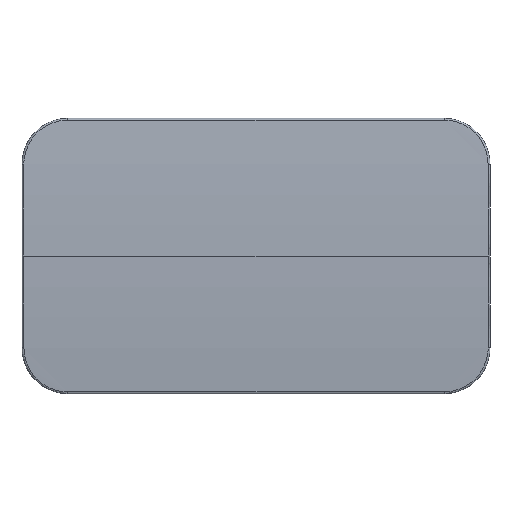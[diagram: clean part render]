
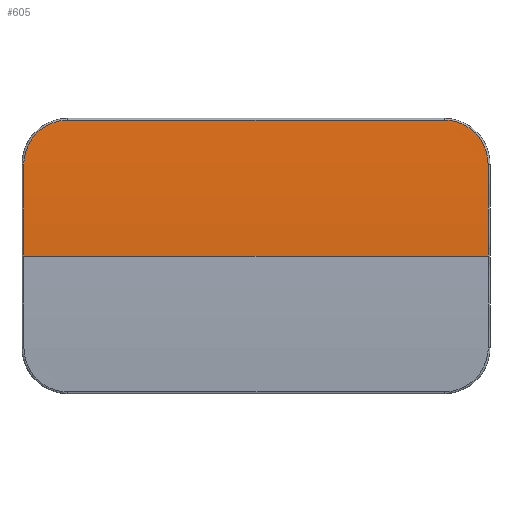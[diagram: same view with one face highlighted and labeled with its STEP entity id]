
A CAD part, left-side view. The second image highlights one B-rep face of the part: STEP entity #605.
In plain terms, the highlighted cylindrical face has radius 161.064 mm (diameter 322.129 mm), a partial arc.
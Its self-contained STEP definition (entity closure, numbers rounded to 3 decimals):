
#312 = CARTESIAN_POINT ( 'NONE',  ( -3247.938, -4493.355, 16.999 ) ) ;
#353 = CARTESIAN_POINT ( 'NONE',  ( -3248.175, -4488.985, 14.164 ) ) ;
#373 = LINE ( 'NONE', #7489, #4556 ) ;
#421 = CARTESIAN_POINT ( 'NONE',  ( -3247.977, -4536.329, 16.568 ) ) ;
#461 = CARTESIAN_POINT ( 'NONE',  ( -3248.29, -4539.155, 12.502 ) ) ;
#605 = ADVANCED_FACE ( 'NONE', ( #3142 ), #5539, .T. ) ;
#629 = CARTESIAN_POINT ( 'NONE',  ( -3247.938, -4534.355, 16.999 ) ) ;
#757 = DIRECTION ( 'NONE',  ( 0., 1., 0. ) ) ;
#829 = CARTESIAN_POINT ( 'NONE',  ( -3248.132, -4489.28, 14.73 ) ) ;
#864 = VERTEX_POINT ( 'NONE', #312 ) ;
#933 = EDGE_LOOP ( 'NONE', ( #1654, #7139, #5715, #6886, #5174, #4761 ) ) ;
#946 = CARTESIAN_POINT ( 'NONE',  ( -3248.31, -4488.555, 12.193 ) ) ;
#985 = CARTESIAN_POINT ( 'NONE',  ( -3248.025, -4490.4, 16.032 ) ) ;
#1044 = VERTEX_POINT ( 'NONE', #629 ) ;
#1083 = CARTESIAN_POINT ( 'NONE',  ( -3248.621, -4488.555, 2.181 ) ) ;
#1084 = AXIS2_PLACEMENT_3D ( 'NONE', #2616, #6243, #4907 ) ;
#1175 = CARTESIAN_POINT ( 'NONE',  ( -3248.141, -4538.541, 14.619 ) ) ;
#1253 = AXIS2_PLACEMENT_3D ( 'NONE', #4537, #6991, #6357 ) ;
#1343 = CARTESIAN_POINT ( 'NONE',  ( -3247.961, -4491.831, 16.745 ) ) ;
#1462 = CARTESIAN_POINT ( 'NONE',  ( -3248.081, -4489.736, 15.366 ) ) ;
#1507 = CARTESIAN_POINT ( 'NONE',  ( -3248.271, -4488.555, 12.811 ) ) ;
#1509 = CARTESIAN_POINT ( 'NONE',  ( -3248.31, -4539.155, 12.193 ) ) ;
#1654 = ORIENTED_EDGE ( 'NONE', *, *, #1814, .F. ) ;
#1772 = CARTESIAN_POINT ( 'NONE',  ( -3248.197, -4538.848, 13.865 ) ) ;
#1814 = EDGE_CURVE ( 'NONE', #4759, #4182, #5579, .T. ) ;
#1880 = CIRCLE ( 'NONE', #1253, 161.064 ) ;
#1934 = EDGE_CURVE ( 'NONE', #1044, #864, #7578, .T. ) ;
#1943 = CARTESIAN_POINT ( 'NONE',  ( -3247.941, -4492.74, 16.968 ) ) ;
#2096 = CARTESIAN_POINT ( 'NONE',  ( -3248.147, -4489.159, 14.526 ) ) ;
#2136 = CARTESIAN_POINT ( 'NONE',  ( -3248.164, -4489.053, 14.31 ) ) ;
#2174 = CARTESIAN_POINT ( 'NONE',  ( -3248.18, -4488.952, 14.089 ) ) ;
#2212 = CARTESIAN_POINT ( 'NONE',  ( -3248.31, -4488.555, 12.193 ) ) ;
#2284 = CARTESIAN_POINT ( 'NONE',  ( -3247.984, -4536.477, 16.498 ) ) ;
#2616 = CARTESIAN_POINT ( 'NONE',  ( -3087.557, -4539.355, 2.181 ) ) ;
#2678 = DIRECTION ( 'NONE',  ( 0., -1., 0. ) ) ;
#2772 = CARTESIAN_POINT ( 'NONE',  ( -3248.1, -4489.539, 15.124 ) ) ;
#2886 = CARTESIAN_POINT ( 'NONE',  ( -3248.191, -4538.82, 13.938 ) ) ;
#2927 = CARTESIAN_POINT ( 'NONE',  ( -3247.938, -4534.973, 16.999 ) ) ;
#3005 = EDGE_CURVE ( 'NONE', #864, #4182, #6457, .T. ) ;
#3142 = FACE_OUTER_BOUND ( 'NONE', #933, .T. ) ;
#3177 = DIRECTION ( 'NONE',  ( -0.998, 0., -0.062 ) ) ;
#3190 = AXIS2_PLACEMENT_3D ( 'NONE', #6164, #757, #3177 ) ;
#3313 = CARTESIAN_POINT ( 'NONE',  ( -3248.621, -4539.155, 2.181 ) ) ;
#3376 = EDGE_CURVE ( 'NONE', #5587, #3793, #1880, .T. ) ;
#3442 = CARTESIAN_POINT ( 'NONE',  ( -3248.027, -4537.289, 16.008 ) ) ;
#3524 = CARTESIAN_POINT ( 'NONE',  ( -3248.044, -4537.531, 15.81 ) ) ;
#3769 = CARTESIAN_POINT ( 'NONE',  ( -3247.966, -4491.682, 16.692 ) ) ;
#3793 = VERTEX_POINT ( 'NONE', #3313 ) ;
#3998 = CARTESIAN_POINT ( 'NONE',  ( -3248.23, -4488.677, 13.418 ) ) ;
#4070 = CARTESIAN_POINT ( 'NONE',  ( -3248.004, -4536.895, 16.268 ) ) ;
#4182 = VERTEX_POINT ( 'NONE', #2212 ) ;
#4189 = CARTESIAN_POINT ( 'NONE',  ( -3248.099, -4538.196, 15.143 ) ) ;
#4226 = CARTESIAN_POINT ( 'NONE',  ( -3247.938, -4534.355, 16.999 ) ) ;
#4358 = CARTESIAN_POINT ( 'NONE',  ( -3247.949, -4492.284, 16.876 ) ) ;
#4436 = CARTESIAN_POINT ( 'NONE',  ( -3247.938, -4534.355, 16.999 ) ) ;
#4537 = CARTESIAN_POINT ( 'NONE',  ( -3087.557, -4539.155, 2.181 ) ) ;
#4556 = VECTOR ( 'NONE', #2678, 1000. ) ;
#4584 = EDGE_CURVE ( 'NONE', #5587, #1044, #6437, .T. ) ;
#4755 = EDGE_CURVE ( 'NONE', #4759, #3793, #373, .T. ) ;
#4759 = VERTEX_POINT ( 'NONE', #1083 ) ;
#4761 = ORIENTED_EDGE ( 'NONE', *, *, #3005, .T. ) ;
#4814 = CARTESIAN_POINT ( 'NONE',  ( -3247.95, -4535.581, 16.876 ) ) ;
#4907 = DIRECTION ( 'NONE',  ( -1., 0., 0. ) ) ;
#4947 = CARTESIAN_POINT ( 'NONE',  ( -3247.938, -4493.355, 16.999 ) ) ;
#5174 = ORIENTED_EDGE ( 'NONE', *, *, #1934, .T. ) ;
#5539 = CYLINDRICAL_SURFACE ( 'NONE', #1084, 161.064 ) ;
#5579 = CIRCLE ( 'NONE', #3190, 161.064 ) ;
#5587 = VERTEX_POINT ( 'NONE', #1509 ) ;
#5715 = ORIENTED_EDGE ( 'NONE', *, *, #3376, .F. ) ;
#5831 = VECTOR ( 'NONE', #6844, 1000. ) ;
#6164 = CARTESIAN_POINT ( 'NONE',  ( -3087.557, -4488.555, 2.181 ) ) ;
#6243 = DIRECTION ( 'NONE',  ( 0., -1., 0. ) ) ;
#6357 = DIRECTION ( 'NONE',  ( -0.998, 0., 0.062 ) ) ;
#6437 = B_SPLINE_CURVE_WITH_KNOTS ( 'NONE', 3,
 ( #7181, #461, #7111, #7731, #6631, #1772, #2886, #1175, #4189, #3524, #3442, #4070, #7644, #2284, #421, #4814, #2927, #4226 ),
 .UNSPECIFIED., .F., .F.,
 ( 4, 1, 1, 2, 2, 2, 2, 2, 2, 4 ),
 ( 0., 0.125, 0.187, 0.219, 0.25, 0.5, 0.625, 0.687, 0.75, 1. ),
 .UNSPECIFIED. ) ;
#6457 = B_SPLINE_CURVE_WITH_KNOTS ( 'NONE', 3,
 ( #4947, #7355, #1943, #4358, #6763, #1343, #3769, #7613, #985, #1462, #2772, #829, #2096, #2136, #353, #2174, #3998, #1507, #946 ),
 .UNSPECIFIED., .F., .F.,
 ( 4, 2, 2, 2, 2, 2, 1, 2, 2, 4 ),
 ( 0., 0.125, 0.187, 0.25, 0.5, 0.625, 0.688, 0.719, 0.75, 1. ),
 .UNSPECIFIED. ) ;
#6631 = CARTESIAN_POINT ( 'NONE',  ( -3248.208, -4538.901, 13.715 ) ) ;
#6763 = CARTESIAN_POINT ( 'NONE',  ( -3247.953, -4492.132, 16.837 ) ) ;
#6844 = DIRECTION ( 'NONE',  ( 0., 1., 0. ) ) ;
#6886 = ORIENTED_EDGE ( 'NONE', *, *, #4584, .T. ) ;
#6991 = DIRECTION ( 'NONE',  ( 0., -1., 0. ) ) ;
#7111 = CARTESIAN_POINT ( 'NONE',  ( -3248.26, -4539.109, 12.961 ) ) ;
#7139 = ORIENTED_EDGE ( 'NONE', *, *, #4755, .T. ) ;
#7181 = CARTESIAN_POINT ( 'NONE',  ( -3248.31, -4539.155, 12.193 ) ) ;
#7355 = CARTESIAN_POINT ( 'NONE',  ( -3247.938, -4493.046, 16.999 ) ) ;
#7489 = CARTESIAN_POINT ( 'NONE',  ( -3248.621, -4539.355, 2.181 ) ) ;
#7578 = LINE ( 'NONE', #4436, #5831 ) ;
#7613 = CARTESIAN_POINT ( 'NONE',  ( -3247.994, -4490.926, 16.38 ) ) ;
#7644 = CARTESIAN_POINT ( 'NONE',  ( -3247.997, -4536.759, 16.349 ) ) ;
#7731 = CARTESIAN_POINT ( 'NONE',  ( -3248.224, -4538.976, 13.49 ) ) ;
